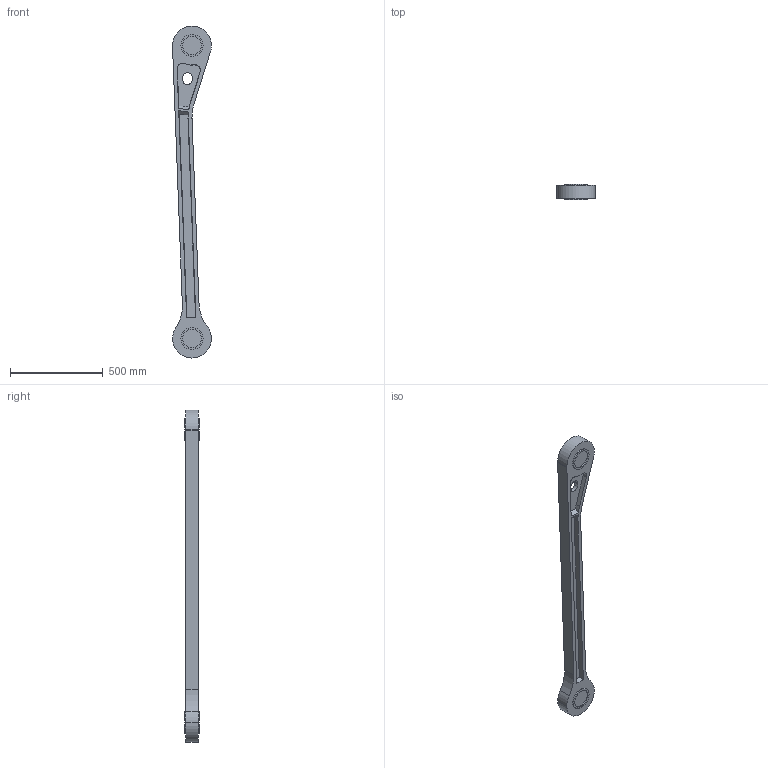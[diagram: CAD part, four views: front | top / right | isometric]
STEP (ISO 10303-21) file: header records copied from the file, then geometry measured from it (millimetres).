
FILE_DESCRIPTION (( 'STEP AP203' ), '1' );
FILE_NAME ('IRB8700-MH6_800-350_IRC5_rev00_LINKBAR_CAD.STEP', '2015-06-04T08:29:11', ( 'ABB' ), ( 'ABB' ), 'SwSTEP 2.0', 'SolidWorks 2014', '' );
FILE_SCHEMA (( 'CONFIG_CONTROL_DESIGN' ));
Length unit declared in the file: millimetre
Products named in the file (1): IRB8700-MH6_800-350_IRC5_rev00_LINKBAR_CAD
Bounding box: 210 x 80 x 1790 mm (x, y, z)
Volume: 10473259.9 mm3; surface area: 854467.3 mm2
Topology: 1 solids, 1 shells, 73 faces, 177 edges, 118 vertices
Faces by surface type: plane 31, cylinder 30, cone 8, bspline 4
Entity records: 2572 total; most frequent: CARTESIAN_POINT 761, DIRECTION 369, ORIENTED_EDGE 354, EDGE_CURVE 177, AXIS2_PLACEMENT_3D 146, VERTEX_POINT 118, EDGE_LOOP 87, LINE 77
